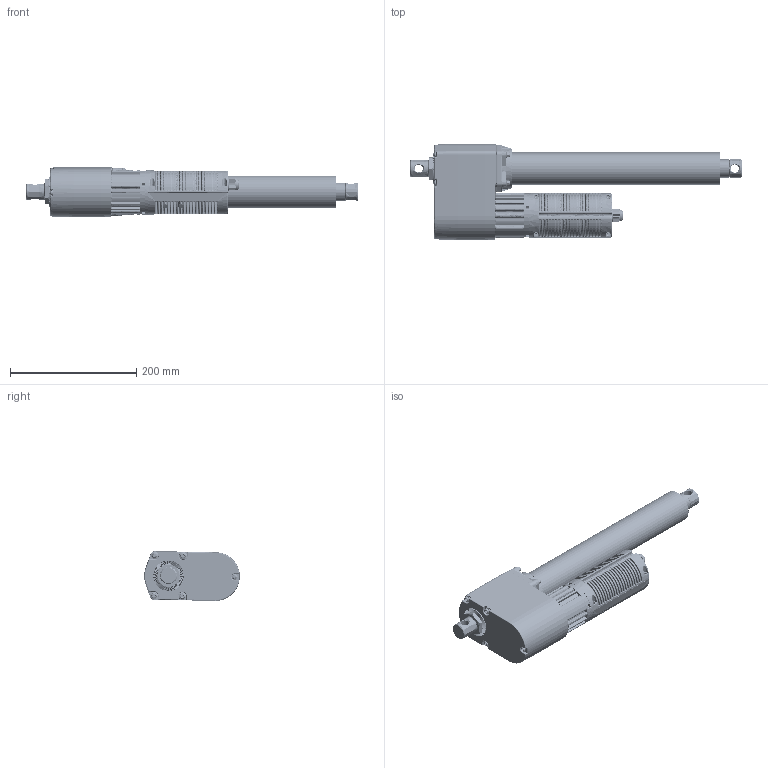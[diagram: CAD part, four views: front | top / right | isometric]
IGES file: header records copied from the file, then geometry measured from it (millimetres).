
Start section: SolidWorks IGES file using analytic representation for surfaces
Bounding box: 526.5 x 151.78 x 78.91 mm (x, y, z)
Surface area: 347044.6 mm2 (no closed solid volume)
Topology: 0 solids, 0 shells, 5086 faces, 42843 edges, 42648 vertices
Faces by surface type: bspline 2743, revolution 2343
